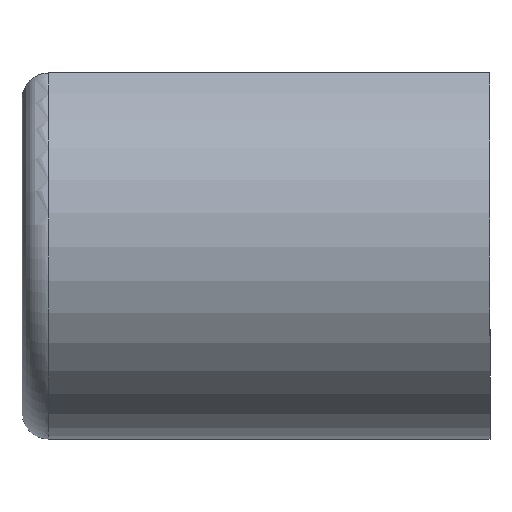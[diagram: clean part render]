
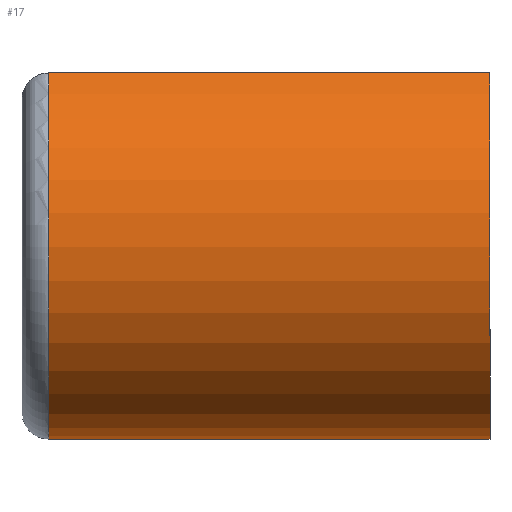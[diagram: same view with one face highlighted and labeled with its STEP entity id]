
A CAD part, left-side view. The second image highlights one B-rep face of the part: STEP entity #17.
In plain terms, the highlighted cylindrical face has radius 3 mm (diameter 6 mm), a partial arc.
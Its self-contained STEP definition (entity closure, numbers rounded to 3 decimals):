
#17 = ADVANCED_FACE('',(#18),#32,.T.);
#18 = FACE_BOUND('',#19,.T.);
#19 = EDGE_LOOP('',(#20,#53,#86,#107));
#20 = ORIENTED_EDGE('',*,*,#21,.T.);
#21 = EDGE_CURVE('',#22,#24,#26,.T.);
#22 = VERTEX_POINT('',#23);
#23 = CARTESIAN_POINT('',(1.658,11.95,2.5));
#24 = VERTEX_POINT('',#25);
#25 = CARTESIAN_POINT('',(1.658,5.32,2.5));
#26 = SURFACE_CURVE('',#27,(#31,#42),.PCURVE_S1.);
#27 = LINE('',#28,#29);
#28 = CARTESIAN_POINT('',(1.658,12.35,2.5));
#29 = VECTOR('',#30,1.);
#30 = DIRECTION('',(0.,-1.,0.));
#31 = PCURVE('',#32,#37);
#32 = CYLINDRICAL_SURFACE('',#33,3.);
#33 = AXIS2_PLACEMENT_3D('',#34,#35,#36);
#34 = CARTESIAN_POINT('',(0.,12.35,0.));
#35 = DIRECTION('',(0.,-1.,0.));
#36 = DIRECTION('',(1.,0.,0.));
#37 = DEFINITIONAL_REPRESENTATION('',(#38),#41);
#38 = B_SPLINE_CURVE_WITH_KNOTS('',1,(#39,#40),.UNSPECIFIED.,.F.,.F.,(2,
    2),(0.,7.03),.PIECEWISE_BEZIER_KNOTS.);
#39 = CARTESIAN_POINT('',(7.268,0.));
#40 = CARTESIAN_POINT('',(7.268,7.03));
#41 = ( GEOMETRIC_REPRESENTATION_CONTEXT(2) 
PARAMETRIC_REPRESENTATION_CONTEXT() REPRESENTATION_CONTEXT('2D SPACE',''
  ) );
#42 = PCURVE('',#43,#48);
#43 = PLANE('',#44);
#44 = AXIS2_PLACEMENT_3D('',#45,#46,#47);
#45 = CARTESIAN_POINT('',(-4.,4.32,2.5));
#46 = DIRECTION('',(0.,0.,1.));
#47 = DIRECTION('',(1.,0.,-0.));
#48 = DEFINITIONAL_REPRESENTATION('',(#49),#52);
#49 = B_SPLINE_CURVE_WITH_KNOTS('',1,(#50,#51),.UNSPECIFIED.,.F.,.F.,(2,
    2),(0.,7.03),.PIECEWISE_BEZIER_KNOTS.);
#50 = CARTESIAN_POINT('',(5.658,8.03));
#51 = CARTESIAN_POINT('',(5.658,1.));
#52 = ( GEOMETRIC_REPRESENTATION_CONTEXT(2) 
PARAMETRIC_REPRESENTATION_CONTEXT() REPRESENTATION_CONTEXT('2D SPACE',''
  ) );
#53 = ORIENTED_EDGE('',*,*,#54,.T.);
#54 = EDGE_CURVE('',#24,#55,#57,.T.);
#55 = VERTEX_POINT('',#56);
#56 = CARTESIAN_POINT('',(-1.658,5.32,2.5));
#57 = SURFACE_CURVE('',#58,(#63,#70),.PCURVE_S1.);
#58 = CIRCLE('',#59,3.);
#59 = AXIS2_PLACEMENT_3D('',#60,#61,#62);
#60 = CARTESIAN_POINT('',(0.,5.32,0.));
#61 = DIRECTION('',(0.,1.,0.));
#62 = DIRECTION('',(0.553,0.,0.833));
#63 = PCURVE('',#32,#64);
#64 = DEFINITIONAL_REPRESENTATION('',(#65),#69);
#65 = LINE('',#66,#67);
#66 = CARTESIAN_POINT('',(7.268,7.03));
#67 = VECTOR('',#68,1.);
#68 = DIRECTION('',(-1.,-0.));
#69 = ( GEOMETRIC_REPRESENTATION_CONTEXT(2) 
PARAMETRIC_REPRESENTATION_CONTEXT() REPRESENTATION_CONTEXT('2D SPACE',''
  ) );
#70 = PCURVE('',#71,#76);
#71 = PLANE('',#72);
#72 = AXIS2_PLACEMENT_3D('',#73,#74,#75);
#73 = CARTESIAN_POINT('',(0.,5.32,0.));
#74 = DIRECTION('',(0.,-1.,0.));
#75 = DIRECTION('',(1.,0.,0.));
#76 = DEFINITIONAL_REPRESENTATION('',(#77),#85);
#77 = ( BOUNDED_CURVE() B_SPLINE_CURVE(2,(#78,#79,#80,#81,#82,#83,#84),
.UNSPECIFIED.,.T.,.F.) B_SPLINE_CURVE_WITH_KNOTS((1,2,2,2,2,1),(
    -2.094,0.,2.094,4.189,6.283,
8.378),.UNSPECIFIED.) CURVE() GEOMETRIC_REPRESENTATION_ITEM() 
RATIONAL_B_SPLINE_CURVE((1.,0.5,1.,0.5,1.,0.5,1.)) REPRESENTATION_ITEM(
  '') );
#78 = CARTESIAN_POINT('',(1.658,2.5));
#79 = CARTESIAN_POINT('',(5.988,-0.372));
#80 = CARTESIAN_POINT('',(1.336,-2.686));
#81 = CARTESIAN_POINT('',(-3.317,-5.));
#82 = CARTESIAN_POINT('',(-2.994,0.186));
#83 = CARTESIAN_POINT('',(-2.672,5.372));
#84 = CARTESIAN_POINT('',(1.658,2.5));
#85 = ( GEOMETRIC_REPRESENTATION_CONTEXT(2) 
PARAMETRIC_REPRESENTATION_CONTEXT() REPRESENTATION_CONTEXT('2D SPACE',''
  ) );
#86 = ORIENTED_EDGE('',*,*,#87,.F.);
#87 = EDGE_CURVE('',#88,#55,#90,.T.);
#88 = VERTEX_POINT('',#89);
#89 = CARTESIAN_POINT('',(-1.658,11.95,2.5));
#90 = SURFACE_CURVE('',#91,(#95,#101),.PCURVE_S1.);
#91 = LINE('',#92,#93);
#92 = CARTESIAN_POINT('',(-1.658,12.35,2.5));
#93 = VECTOR('',#94,1.);
#94 = DIRECTION('',(0.,-1.,0.));
#95 = PCURVE('',#32,#96);
#96 = DEFINITIONAL_REPRESENTATION('',(#97),#100);
#97 = B_SPLINE_CURVE_WITH_KNOTS('',1,(#98,#99),.UNSPECIFIED.,.F.,.F.,(2,
    2),(0.,7.03),.PIECEWISE_BEZIER_KNOTS.);
#98 = CARTESIAN_POINT('',(2.156,0.));
#99 = CARTESIAN_POINT('',(2.156,7.03));
#100 = ( GEOMETRIC_REPRESENTATION_CONTEXT(2) 
PARAMETRIC_REPRESENTATION_CONTEXT() REPRESENTATION_CONTEXT('2D SPACE',''
  ) );
#101 = PCURVE('',#43,#102);
#102 = DEFINITIONAL_REPRESENTATION('',(#103),#106);
#103 = B_SPLINE_CURVE_WITH_KNOTS('',1,(#104,#105),.UNSPECIFIED.,.F.,.F.,
  (2,2),(0.,7.03),.PIECEWISE_BEZIER_KNOTS.);
#104 = CARTESIAN_POINT('',(2.342,8.03));
#105 = CARTESIAN_POINT('',(2.342,1.));
#106 = ( GEOMETRIC_REPRESENTATION_CONTEXT(2) 
PARAMETRIC_REPRESENTATION_CONTEXT() REPRESENTATION_CONTEXT('2D SPACE',''
  ) );
#107 = ORIENTED_EDGE('',*,*,#108,.T.);
#108 = EDGE_CURVE('',#88,#22,#109,.T.);
#109 = SURFACE_CURVE('',#110,(#115,#122),.PCURVE_S1.);
#110 = CIRCLE('',#111,3.);
#111 = AXIS2_PLACEMENT_3D('',#112,#113,#114);
#112 = CARTESIAN_POINT('',(0.,11.95,0.));
#113 = DIRECTION('',(0.,-1.,0.));
#114 = DIRECTION('',(-0.553,0.,0.833)
  );
#115 = PCURVE('',#32,#116);
#116 = DEFINITIONAL_REPRESENTATION('',(#117),#121);
#117 = LINE('',#118,#119);
#118 = CARTESIAN_POINT('',(2.156,0.4));
#119 = VECTOR('',#120,1.);
#120 = DIRECTION('',(1.,0.));
#121 = ( GEOMETRIC_REPRESENTATION_CONTEXT(2) 
PARAMETRIC_REPRESENTATION_CONTEXT() REPRESENTATION_CONTEXT('2D SPACE',''
  ) );
#122 = PCURVE('',#123,#128);
#123 = TOROIDAL_SURFACE('',#124,2.6,0.4);
#124 = AXIS2_PLACEMENT_3D('',#125,#126,#127);
#125 = CARTESIAN_POINT('',(0.,11.95,0.));
#126 = DIRECTION('',(-0.,1.,0.));
#127 = DIRECTION('',(-0.553,0.,0.833)
  );
#128 = DEFINITIONAL_REPRESENTATION('',(#129),#133);
#129 = LINE('',#130,#131);
#130 = CARTESIAN_POINT('',(-0.,0.));
#131 = VECTOR('',#132,1.);
#132 = DIRECTION('',(-1.,0.));
#133 = ( GEOMETRIC_REPRESENTATION_CONTEXT(2) 
PARAMETRIC_REPRESENTATION_CONTEXT() REPRESENTATION_CONTEXT('2D SPACE',''
  ) );
